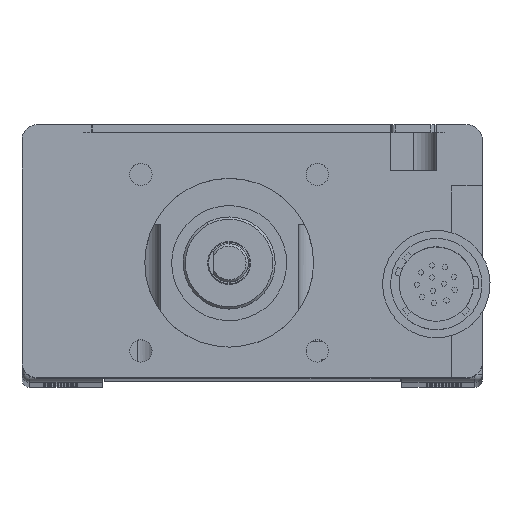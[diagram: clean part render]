
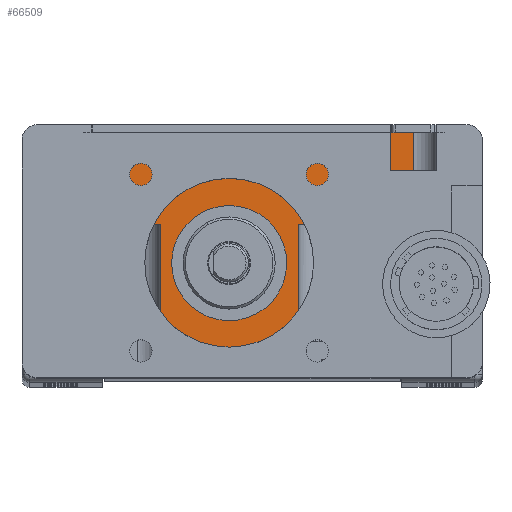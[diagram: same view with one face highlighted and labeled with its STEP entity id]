
A CAD part, top view. The second image highlights one B-rep face of the part: STEP entity #66509.
In plain terms, the highlighted planar face has unit normal (0, 0, 1).
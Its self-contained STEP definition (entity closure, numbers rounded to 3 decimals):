
#289 = EDGE_CURVE ( 'NONE', #14319, #53625, #5915, .T. ) ;
#3329 = EDGE_CURVE ( 'NONE', #59660, #89287, #113051, .T. ) ;
#5709 = AXIS2_PLACEMENT_3D ( 'NONE', #118809, #120682, #110666 ) ;
#5915 = LINE ( 'NONE', #44838, #56860 ) ;
#6231 = CARTESIAN_POINT ( 'NONE',  ( -3., 15.5, 402. ) ) ;
#6252 = EDGE_CURVE ( 'NONE', #84255, #26250, #83660, .T. ) ;
#7464 = VECTOR ( 'NONE', #84191, 1000. ) ;
#9932 = CARTESIAN_POINT ( 'NONE',  ( 6., 20.5, 402. ) ) ;
#14114 = VERTEX_POINT ( 'NONE', #89001 ) ;
#14319 = VERTEX_POINT ( 'NONE', #111547 ) ;
#14443 = EDGE_CURVE ( 'NONE', #14114, #89287, #81288, .T. ) ;
#15446 = CIRCLE ( 'NONE', #65691, 7.5 ) ;
#18047 = VERTEX_POINT ( 'NONE', #112982 ) ;
#19004 = DIRECTION ( 'NONE',  ( 1., 0., 0. ) ) ;
#19616 = CARTESIAN_POINT ( 'NONE',  ( -3., 15.5, 402. ) ) ;
#20700 = ORIENTED_EDGE ( 'NONE', *, *, #114739, .F. ) ;
#22752 = VECTOR ( 'NONE', #84772, 1000. ) ;
#23132 = CARTESIAN_POINT ( 'NONE',  ( -21., 13.5, 402. ) ) ;
#26250 = VERTEX_POINT ( 'NONE', #105082 ) ;
#26719 = EDGE_CURVE ( 'NONE', #28989, #53625, #28923, .T. ) ;
#28923 = LINE ( 'NONE', #114963, #42663 ) ;
#28989 = VERTEX_POINT ( 'NONE', #49823 ) ;
#29162 = DIRECTION ( 'NONE',  ( 0., 0., -1. ) ) ;
#31278 = DIRECTION ( 'NONE',  ( 0., -1., 0. ) ) ;
#31487 = CARTESIAN_POINT ( 'NONE',  ( 6., 9.175, 402. ) ) ;
#33529 = EDGE_CURVE ( 'NONE', #14114, #28989, #99107, .T. ) ;
#33751 = EDGE_LOOP ( 'NONE', ( #81816, #90342 ) ) ;
#35793 = EDGE_CURVE ( 'NONE', #107005, #59660, #41077, .T. ) ;
#37023 = AXIS2_PLACEMENT_3D ( 'NONE', #19616, #96209, #19004 ) ;
#41077 = CIRCLE ( 'NONE', #37023, 11. ) ;
#42663 = VECTOR ( 'NONE', #88569, 1000. ) ;
#44838 = CARTESIAN_POINT ( 'NONE',  ( 21., 13.5, 402. ) ) ;
#45172 = DIRECTION ( 'NONE',  ( -1., 0., 0. ) ) ;
#45526 = AXIS2_PLACEMENT_3D ( 'NONE', #106412, #29162, #124007 ) ;
#45865 = CARTESIAN_POINT ( 'NONE',  ( -12., 20.5, 402. ) ) ;
#47653 = EDGE_LOOP ( 'NONE', ( #111378, #64782, #20700, #81955, #54741, #51272, #56890, #68531 ) ) ;
#48307 = CARTESIAN_POINT ( 'NONE',  ( 9., 20.5, 402. ) ) ;
#49823 = CARTESIAN_POINT ( 'NONE',  ( -21., 32.5, 402. ) ) ;
#49906 = CARTESIAN_POINT ( 'NONE',  ( -15., 20.5, 402. ) ) ;
#51272 = ORIENTED_EDGE ( 'NONE', *, *, #26719, .F. ) ;
#52969 = VECTOR ( 'NONE', #31278, 1000. ) ;
#53625 = VERTEX_POINT ( 'NONE', #78423 ) ;
#53775 = VECTOR ( 'NONE', #68993, 1000. ) ;
#54609 = DIRECTION ( 'NONE',  ( 0., 0., -1. ) ) ;
#54741 = ORIENTED_EDGE ( 'NONE', *, *, #289, .T. ) ;
#55963 = VECTOR ( 'NONE', #88225, 1000. ) ;
#56860 = VECTOR ( 'NONE', #71890, 1000. ) ;
#56890 = ORIENTED_EDGE ( 'NONE', *, *, #33529, .F. ) ;
#59660 = VERTEX_POINT ( 'NONE', #112260 ) ;
#62324 = CARTESIAN_POINT ( 'NONE',  ( 4.106, 17.9, 402. ) ) ;
#64782 = ORIENTED_EDGE ( 'NONE', *, *, #35793, .F. ) ;
#65691 = AXIS2_PLACEMENT_3D ( 'NONE', #6231, #54609, #45172 ) ;
#66509 = ADVANCED_FACE ( 'NONE', ( #72361, #120067 ), #80574, .F. ) ;
#68531 = ORIENTED_EDGE ( 'NONE', *, *, #14443, .T. ) ;
#68993 = DIRECTION ( 'NONE',  ( 0., 1., 0. ) ) ;
#71890 = DIRECTION ( 'NONE',  ( 0., 1., 0. ) ) ;
#72361 = FACE_BOUND ( 'NONE', #33751, .T. ) ;
#78423 = CARTESIAN_POINT ( 'NONE',  ( 21., 32.5, 402. ) ) ;
#79011 = LINE ( 'NONE', #9932, #52969 ) ;
#79850 = EDGE_CURVE ( 'NONE', #26250, #84255, #15446, .T. ) ;
#80574 = PLANE ( 'NONE',  #5709 ) ;
#81288 = LINE ( 'NONE', #49906, #55963 ) ;
#81816 = ORIENTED_EDGE ( 'NONE', *, *, #79850, .T. ) ;
#81955 = ORIENTED_EDGE ( 'NONE', *, *, #92019, .F. ) ;
#83660 = CIRCLE ( 'NONE', #45526, 7.5 ) ;
#84191 = DIRECTION ( 'NONE',  ( 0., 1., 0. ) ) ;
#84255 = VERTEX_POINT ( 'NONE', #62324 ) ;
#84772 = DIRECTION ( 'NONE',  ( -1., 0., 0. ) ) ;
#86154 = CARTESIAN_POINT ( 'NONE',  ( -12., 20.5, 402. ) ) ;
#88225 = DIRECTION ( 'NONE',  ( 1., 0., 0. ) ) ;
#88569 = DIRECTION ( 'NONE',  ( 1., 0., 0. ) ) ;
#89001 = CARTESIAN_POINT ( 'NONE',  ( -21., 20.5, 402. ) ) ;
#89287 = VERTEX_POINT ( 'NONE', #86154 ) ;
#90342 = ORIENTED_EDGE ( 'NONE', *, *, #6252, .T. ) ;
#92019 = EDGE_CURVE ( 'NONE', #14319, #18047, #123043, .T. ) ;
#96209 = DIRECTION ( 'NONE',  ( 0., 0., -1. ) ) ;
#99107 = LINE ( 'NONE', #23132, #53775 ) ;
#105082 = CARTESIAN_POINT ( 'NONE',  ( -10.106, 13.1, 402. ) ) ;
#106412 = CARTESIAN_POINT ( 'NONE',  ( -3., 15.5, 402. ) ) ;
#107005 = VERTEX_POINT ( 'NONE', #31487 ) ;
#110666 = DIRECTION ( 'NONE',  ( -1., 0., 0. ) ) ;
#111378 = ORIENTED_EDGE ( 'NONE', *, *, #3329, .F. ) ;
#111547 = CARTESIAN_POINT ( 'NONE',  ( 21., 20.5, 402. ) ) ;
#112260 = CARTESIAN_POINT ( 'NONE',  ( -12., 9.175, 402. ) ) ;
#112982 = CARTESIAN_POINT ( 'NONE',  ( 6., 20.5, 402. ) ) ;
#113051 = LINE ( 'NONE', #45865, #7464 ) ;
#114739 = EDGE_CURVE ( 'NONE', #18047, #107005, #79011, .T. ) ;
#114963 = CARTESIAN_POINT ( 'NONE',  ( 21., 32.5, 402. ) ) ;
#118809 = CARTESIAN_POINT ( 'NONE',  ( 21., 13.5, 402. ) ) ;
#120067 = FACE_OUTER_BOUND ( 'NONE', #47653, .T. ) ;
#120682 = DIRECTION ( 'NONE',  ( 0., 0., -1. ) ) ;
#123043 = LINE ( 'NONE', #48307, #22752 ) ;
#124007 = DIRECTION ( 'NONE',  ( -1., 0., 0. ) ) ;
